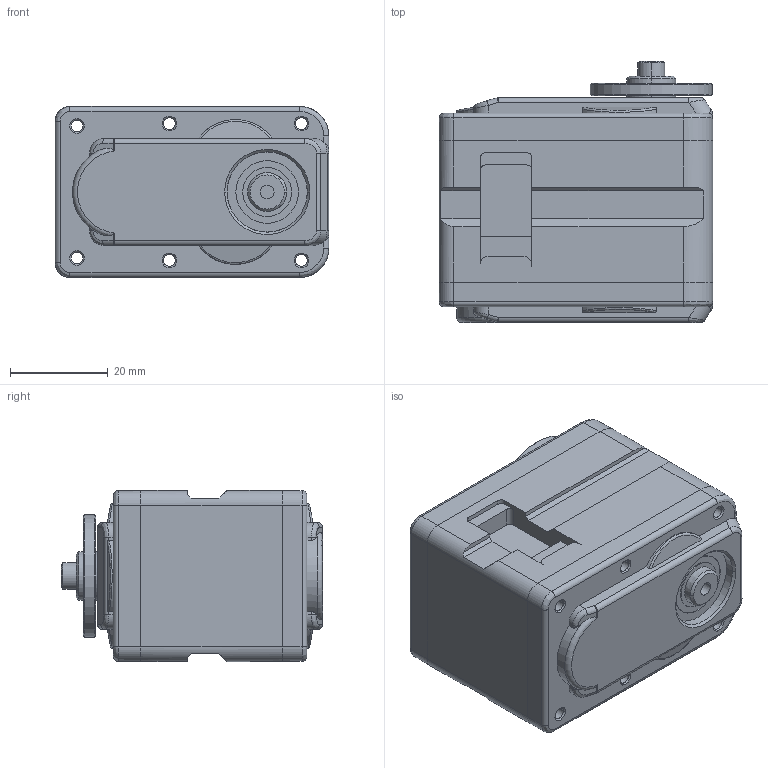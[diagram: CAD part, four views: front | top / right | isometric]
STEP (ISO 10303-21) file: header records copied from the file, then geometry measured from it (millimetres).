
FILE_DESCRIPTION((''),'2;1');
FILE_NAME('DRS060X_PUBLISH','2013-02-12T',('WOOSIK'),(''),'PRO/ENGINEER BY PARAMETRIC TECHNOLOGY CORPORATION, 2010060','PRO/ENGINEER BY PARAMETRIC TECHNOLOGY CORPORATION, 2010060','');
FILE_SCHEMA(('CONFIG_CONTROL_DESIGN'));
Length unit declared in the file: millimetre
Products named in the file (1): DRS060X_PUBLISH
Bounding box: 56 x 53.4 x 35 mm (x, y, z)
Volume: 80644.7 mm3; surface area: 15289.3 mm2
Topology: 1 solids, 3 shells, 355 faces, 871 edges, 534 vertices
Faces by surface type: cylinder 129, plane 110, cone 74, bspline 35, sphere 4, torus 3
Entity records: 12364 total; most frequent: CARTESIAN_POINT 4097, ORIENTED_EDGE 1742, DIRECTION 1659, EDGE_CURVE 871, AXIS2_PLACEMENT_3D 616, VERTEX_POINT 534, VECTOR 427, LINE 427
